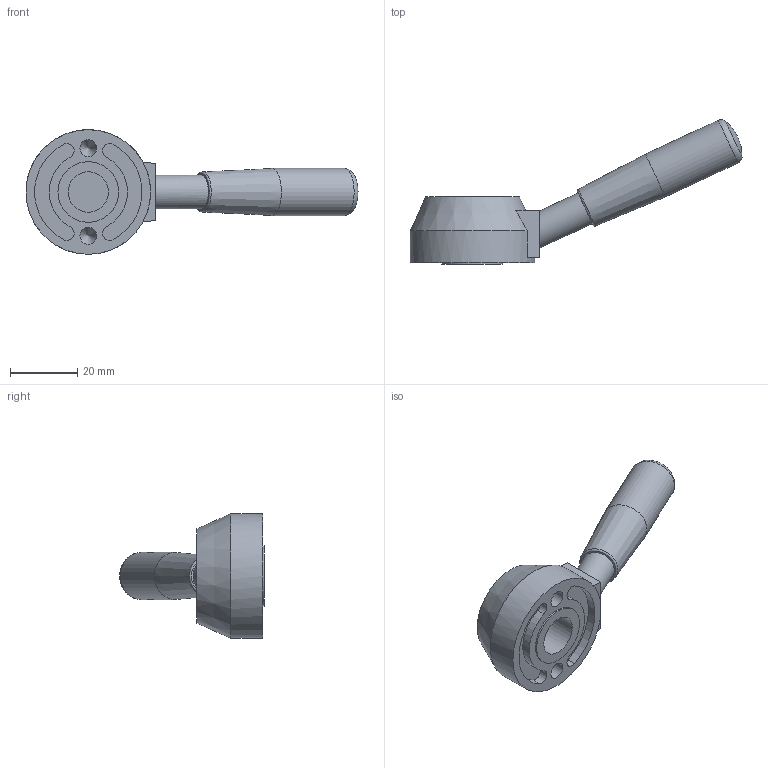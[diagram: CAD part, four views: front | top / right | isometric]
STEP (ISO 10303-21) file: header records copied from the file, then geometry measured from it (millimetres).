
FILE_DESCRIPTION( ( 'STEP AP203' ), '1' );
FILE_NAME( 'C:/Temp/Ganter_Step_05_03_2020/data/2_1/gn_512/gn_512_b/Control lever GN 512-37-B12.stp', '2020-03-05T11:51:36', ( 'License CC BY-ND 4.0' ), ( 'CADENAS' ), ' ', 'PARTsolutions', ' ' );
FILE_SCHEMA( ( 'CONFIG_CONTROL_DESIGN' ) );
Length unit declared in the file: millimetre
Products named in the file (1): _Control lever GN 512-37-B12
Bounding box: 98.59 x 42.95 x 37 mm (x, y, z)
Volume: 24204.6 mm3; surface area: 8252.3 mm2
Topology: 1 solids, 1 shells, 36 faces, 80 edges, 52 vertices
Faces by surface type: cylinder 16, plane 13, cone 4, torus 2, sphere 1
Full cylindrical faces by diameter (mm): 5 x2, 10 x1, 12 x1, 14 x1, 18 x1, 21 x1, 37 x1
Entity records: 930 total; most frequent: DIRECTION 168, CARTESIAN_POINT 149, ORIENTED_EDGE 116, AXIS2_PLACEMENT_3D 75, EDGE_CURVE 58, EDGE_LOOP 57, VERTEX_POINT 48, FACE_OUTER_BOUND 46
